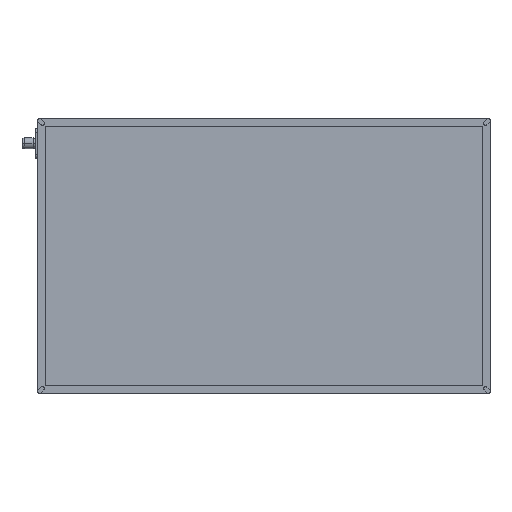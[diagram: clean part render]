
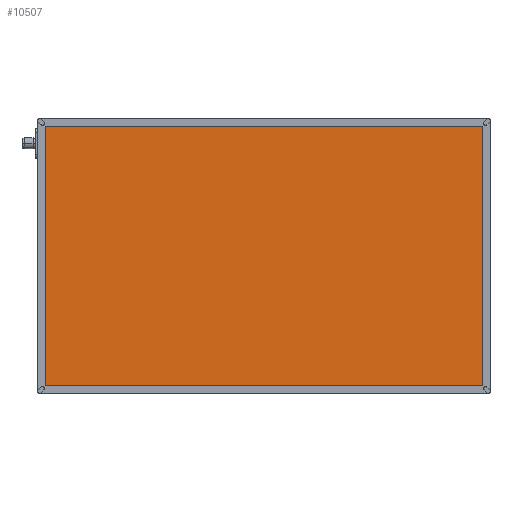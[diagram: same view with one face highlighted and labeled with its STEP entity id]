
A CAD part, top view. The second image highlights one B-rep face of the part: STEP entity #10507.
In plain terms, the highlighted planar face has unit normal (0, 0, 1).
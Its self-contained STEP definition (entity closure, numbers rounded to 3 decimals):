
#853 = CARTESIAN_POINT ( 'NONE',  ( 4., 0., 41.85 ) ) ;
#944 = VECTOR ( 'NONE', #5614, 1000. ) ;
#1175 = VERTEX_POINT ( 'NONE', #11670 ) ;
#1276 = DIRECTION ( 'NONE',  ( 0., 1., 0. ) ) ;
#3213 = EDGE_CURVE ( 'NONE', #6209, #1175, #15897, .T. ) ;
#3333 = DIRECTION ( 'NONE',  ( 0., 0., -1. ) ) ;
#4205 = EDGE_CURVE ( 'NONE', #10642, #11360, #15303, .T. ) ;
#4693 = VECTOR ( 'NONE', #6164, 1000. ) ;
#4804 = PLANE ( 'NONE',  #10152 ) ;
#5614 = DIRECTION ( 'NONE',  ( -1., 0., 0. ) ) ;
#5672 = CARTESIAN_POINT ( 'NONE',  ( 0., 4., 41.85 ) ) ;
#5856 = ORIENTED_EDGE ( 'NONE', *, *, #6032, .T. ) ;
#6030 = DIRECTION ( 'NONE',  ( -1., 0., 0. ) ) ;
#6032 = EDGE_CURVE ( 'NONE', #11360, #6209, #16378, .T. ) ;
#6164 = DIRECTION ( 'NONE',  ( 0., -1., 0. ) ) ;
#6209 = VERTEX_POINT ( 'NONE', #10094 ) ;
#6638 = EDGE_CURVE ( 'NONE', #1175, #10642, #10659, .T. ) ;
#6920 = CARTESIAN_POINT ( 'NONE',  ( 0., 296., 41.85 ) ) ;
#7313 = DIRECTION ( 'NONE',  ( 1., 0., 0. ) ) ;
#8037 = CARTESIAN_POINT ( 'NONE',  ( 4., 4., 41.85 ) ) ;
#8052 = VECTOR ( 'NONE', #7313, 1000. ) ;
#8810 = CARTESIAN_POINT ( 'NONE',  ( 0., 0., 41.85 ) ) ;
#8988 = ORIENTED_EDGE ( 'NONE', *, *, #6638, .T. ) ;
#9946 = FACE_OUTER_BOUND ( 'NONE', #14244, .T. ) ;
#10094 = CARTESIAN_POINT ( 'NONE',  ( 496., 4., 41.85 ) ) ;
#10125 = ORIENTED_EDGE ( 'NONE', *, *, #3213, .T. ) ;
#10135 = ORIENTED_EDGE ( 'NONE', *, *, #4205, .T. ) ;
#10152 = AXIS2_PLACEMENT_3D ( 'NONE', #8810, #3333, #6030 ) ;
#10266 = VECTOR ( 'NONE', #1276, 1000. ) ;
#10507 = ADVANCED_FACE ( 'NONE', ( #9946 ), #4804, .F. ) ;
#10642 = VERTEX_POINT ( 'NONE', #17078 ) ;
#10659 = LINE ( 'NONE', #6920, #944 ) ;
#11360 = VERTEX_POINT ( 'NONE', #8037 ) ;
#11670 = CARTESIAN_POINT ( 'NONE',  ( 496., 296., 41.85 ) ) ;
#13031 = CARTESIAN_POINT ( 'NONE',  ( 496., 0., 41.85 ) ) ;
#14244 = EDGE_LOOP ( 'NONE', ( #10125, #8988, #10135, #5856 ) ) ;
#15303 = LINE ( 'NONE', #853, #4693 ) ;
#15897 = LINE ( 'NONE', #13031, #10266 ) ;
#16378 = LINE ( 'NONE', #5672, #8052 ) ;
#17078 = CARTESIAN_POINT ( 'NONE',  ( 4., 296., 41.85 ) ) ;
